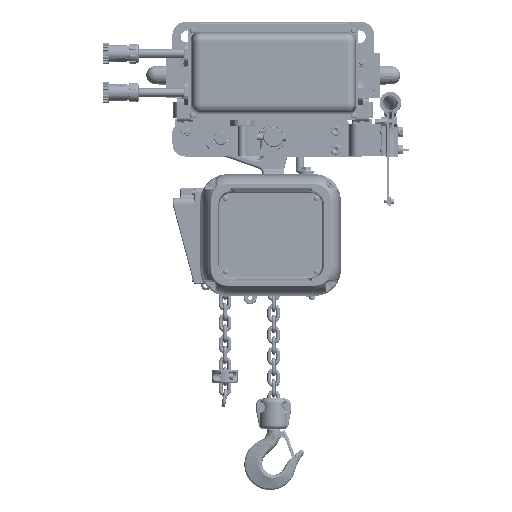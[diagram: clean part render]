
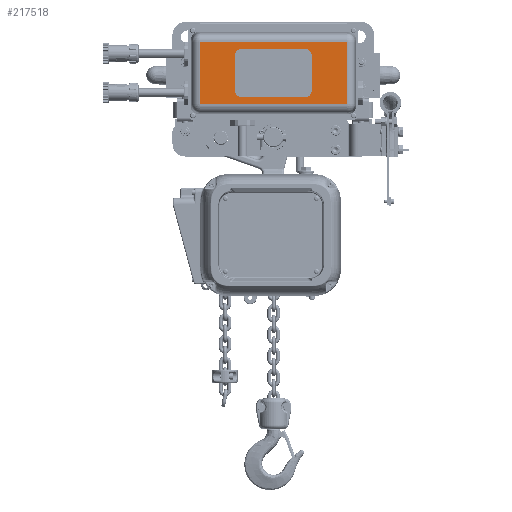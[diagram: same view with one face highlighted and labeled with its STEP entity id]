
A CAD part, top view. The second image highlights one B-rep face of the part: STEP entity #217518.
In plain terms, the highlighted planar face has unit normal (0, 0, 1) as drawn and (-1, 0, 0) by its records, which use the part's own axes.
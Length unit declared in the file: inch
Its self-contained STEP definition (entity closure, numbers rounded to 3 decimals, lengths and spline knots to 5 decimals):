
#6884 = CARTESIAN_POINT ( 'NONE',  ( -2.71654, -2.25031, 0.73446 ) ) ;
#16482 = VECTOR ( 'NONE', #46604, 39.37008 ) ;
#35834 = EDGE_CURVE ( 'NONE', #269260, #153965, #90650, .T. ) ;
#39589 = ORIENTED_EDGE ( 'NONE', *, *, #222998, .T. ) ;
#44835 = ORIENTED_EDGE ( 'NONE', *, *, #265480, .T. ) ;
#46604 = DIRECTION ( 'NONE',  ( 0., 0., 1. ) ) ;
#50856 = VERTEX_POINT ( 'NONE', #156857 ) ;
#90650 = LINE ( 'NONE', #219211, #16482 ) ;
#91659 = DIRECTION ( 'NONE',  ( 0., 1., 0. ) ) ;
#95174 = EDGE_CURVE ( 'NONE', #153965, #50856, #195790, .T. ) ;
#97091 = DIRECTION ( 'NONE',  ( -1., 0., 0. ) ) ;
#115980 = CARTESIAN_POINT ( 'NONE',  ( -2.71654, 4.84533, 0.73446 ) ) ;
#124328 = VECTOR ( 'NONE', #226701, 39.37008 ) ;
#128403 = CARTESIAN_POINT ( 'NONE',  ( -2.71654, 0.98144, 0.73446 ) ) ;
#140311 = ORIENTED_EDGE ( 'NONE', *, *, #35834, .T. ) ;
#142733 = ORIENTED_EDGE ( 'NONE', *, *, #95174, .T. ) ;
#148525 = CARTESIAN_POINT ( 'NONE',  ( -2.71654, 5.33958, 9.75453 ) ) ;
#150843 = CARTESIAN_POINT ( 'NONE',  ( -2.71654, -2.25031, 10.47244 ) ) ;
#153965 = VERTEX_POINT ( 'NONE', #185879 ) ;
#156857 = CARTESIAN_POINT ( 'NONE',  ( -2.71654, 4.84533, 9.75453 ) ) ;
#158290 = LINE ( 'NONE', #6884, #124328 ) ;
#170443 = DIRECTION ( 'NONE',  ( 0., 0., 1. ) ) ;
#185879 = CARTESIAN_POINT ( 'NONE',  ( -2.71654, 0.98144, 9.75453 ) ) ;
#195790 = LINE ( 'NONE', #148525, #242337 ) ;
#213812 = DIRECTION ( 'NONE',  ( 0., 0., -1. ) ) ;
#217518 = ADVANCED_FACE ( 'NONE', ( #320302 ), #294252, .T. ) ;
#219211 = CARTESIAN_POINT ( 'NONE',  ( -2.71654, 0.98144, 10.47244 ) ) ;
#222998 = EDGE_CURVE ( 'NONE', #50856, #273728, #239874, .T. ) ;
#226701 = DIRECTION ( 'NONE',  ( 0., -1., 0. ) ) ;
#239874 = LINE ( 'NONE', #259512, #262958 ) ;
#242337 = VECTOR ( 'NONE', #91659, 39.37008 ) ;
#259512 = CARTESIAN_POINT ( 'NONE',  ( -2.71654, 4.84533, 10.47244 ) ) ;
#262958 = VECTOR ( 'NONE', #213812, 39.37008 ) ;
#265480 = EDGE_CURVE ( 'NONE', #273728, #269260, #158290, .T. ) ;
#269260 = VERTEX_POINT ( 'NONE', #128403 ) ;
#273728 = VERTEX_POINT ( 'NONE', #115980 ) ;
#294252 = PLANE ( 'NONE',  #297912 ) ;
#297912 = AXIS2_PLACEMENT_3D ( 'NONE', #150843, #97091, #170443 ) ;
#305088 = EDGE_LOOP ( 'NONE', ( #140311, #142733, #39589, #44835 ) ) ;
#320302 = FACE_OUTER_BOUND ( 'NONE', #305088, .T. ) ;
